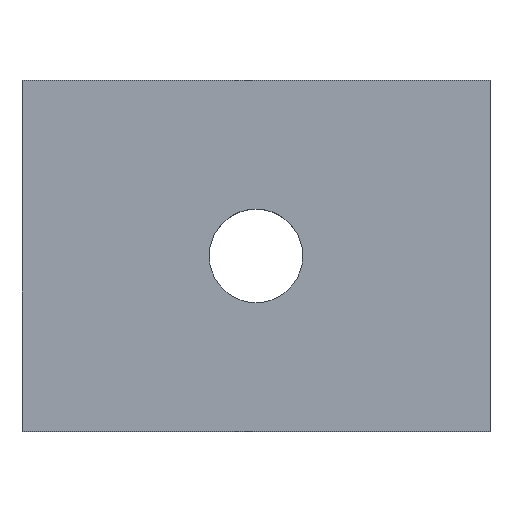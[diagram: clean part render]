
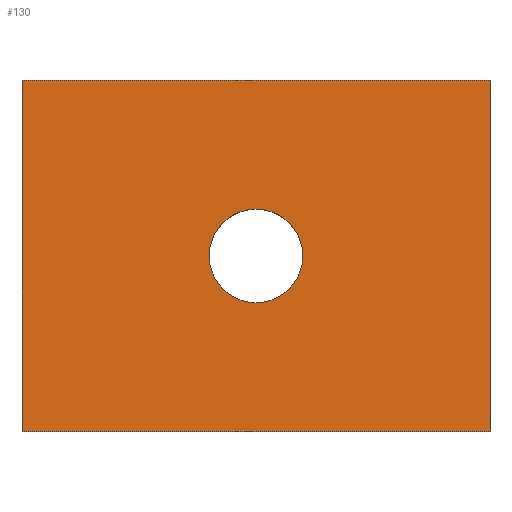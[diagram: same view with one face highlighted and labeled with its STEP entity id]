
A CAD part, top view. The second image highlights one B-rep face of the part: STEP entity #130.
In plain terms, the highlighted planar face has unit normal (0, 0, 1).
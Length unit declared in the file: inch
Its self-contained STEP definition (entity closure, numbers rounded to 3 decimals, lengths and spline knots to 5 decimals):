
#17=CARTESIAN_POINT('',(0.,0.,0.3937));
#18=VERTEX_POINT('',#17);
#19=CARTESIAN_POINT('',(1.5748,0.,0.3937));
#20=VERTEX_POINT('',#19);
#21=CARTESIAN_POINT('',(1.5748,1.1811,0.3937));
#22=VERTEX_POINT('',#21);
#23=CARTESIAN_POINT('',(0.,1.1811,0.3937));
#24=VERTEX_POINT('',#23);
#45=DIRECTION('',(1.,0.,0.));
#46=VECTOR('',#45,1.5748);
#47=CARTESIAN_POINT('',(0.,0.,0.3937));
#48=LINE('',#47,#46);
#49=EDGE_CURVE('',#18,#20,#48,.T.);
#50=DIRECTION('',(0.,1.,0.));
#51=VECTOR('',#50,1.1811);
#52=CARTESIAN_POINT('',(1.5748,0.,0.3937));
#53=LINE('',#52,#51);
#54=EDGE_CURVE('',#20,#22,#53,.T.);
#55=DIRECTION('',(-1.,0.,0.));
#56=VECTOR('',#55,1.5748);
#57=CARTESIAN_POINT('',(1.5748,1.1811,0.3937));
#58=LINE('',#57,#56);
#59=EDGE_CURVE('',#22,#24,#58,.T.);
#60=DIRECTION('',(0.,-1.,0.));
#61=VECTOR('',#60,1.1811);
#62=CARTESIAN_POINT('',(0.,1.1811,0.3937));
#63=LINE('',#62,#61);
#64=EDGE_CURVE('',#24,#18,#63,.T.);
#93=CARTESIAN_POINT('',(0.7874,0.59055,0.3937));
#94=DIRECTION('',(0.,0.,1.));
#95=DIRECTION('',(1.,0.,0.));
#96=AXIS2_PLACEMENT_3D('',#93,#94,#95);
#97=CIRCLE('',#96,0.15748);
#98=CARTESIAN_POINT('',(0.94488,0.59055,0.3937));
#99=VERTEX_POINT('',#98);
#100=EDGE_CURVE('',#99,#99,#97,.T.);
#116=ORIENTED_EDGE('',*,*,#49,.T.);
#117=ORIENTED_EDGE('',*,*,#54,.T.);
#118=ORIENTED_EDGE('',*,*,#59,.T.);
#119=ORIENTED_EDGE('',*,*,#64,.T.);
#120=EDGE_LOOP('',(#116,#117,#118,#119));
#121=FACE_OUTER_BOUND('',#120,.T.);
#122=ORIENTED_EDGE('',*,*,#100,.T.);
#123=EDGE_LOOP('',(#122));
#124=FACE_BOUND('',#123,.T.);
#125=CARTESIAN_POINT('',(0.,0.,0.3937));
#126=DIRECTION('',(0.,0.,1.));
#127=DIRECTION('',(1.,0.,0.));
#128=AXIS2_PLACEMENT_3D('',#125,#126,#127);
#129=PLANE('',#128);
#130=ADVANCED_FACE('',(#121,#124),#129,.T.);
